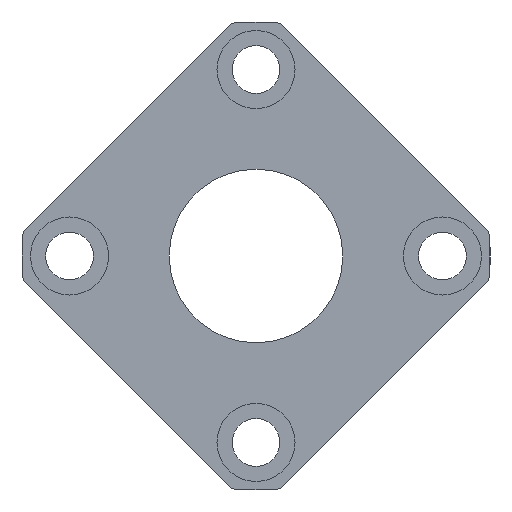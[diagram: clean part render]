
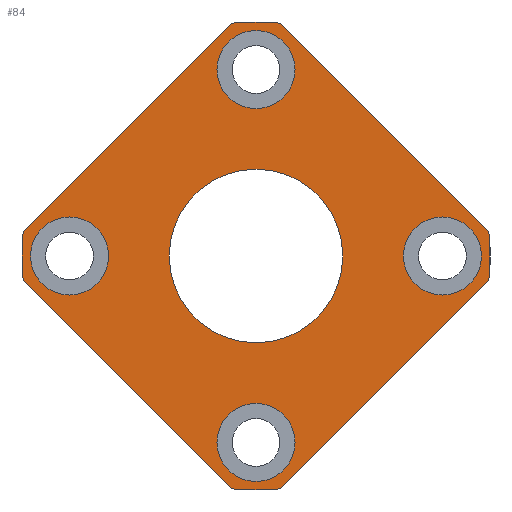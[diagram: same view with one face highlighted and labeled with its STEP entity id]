
A CAD part, left-side view. The second image highlights one B-rep face of the part: STEP entity #84.
In plain terms, the highlighted planar face has unit normal (-1, 0, 0).
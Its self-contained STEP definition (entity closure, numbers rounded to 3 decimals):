
#84 = ADVANCED_FACE( '', ( #125, #126, #127, #128, #129, #130 ), #131, .T. );
#125 = FACE_BOUND( '', #200, .T. );
#126 = FACE_BOUND( '', #201, .T. );
#127 = FACE_OUTER_BOUND( '', #202, .T. );
#128 = FACE_BOUND( '', #203, .T. );
#129 = FACE_BOUND( '', #204, .T. );
#130 = FACE_BOUND( '', #205, .T. );
#131 = PLANE( '', #206 );
#200 = EDGE_LOOP( '', ( #321 ) );
#201 = EDGE_LOOP( '', ( #322 ) );
#202 = EDGE_LOOP( '', ( #323, #324, #325, #326, #327, #328, #329, #330 ) );
#203 = EDGE_LOOP( '', ( #331 ) );
#204 = EDGE_LOOP( '', ( #332 ) );
#205 = EDGE_LOOP( '', ( #333 ) );
#206 = AXIS2_PLACEMENT_3D( '', #334, #335, #336 );
#321 = ORIENTED_EDGE( '', *, *, #444, .T. );
#322 = ORIENTED_EDGE( '', *, *, #434, .T. );
#323 = ORIENTED_EDGE( '', *, *, #445, .F. );
#324 = ORIENTED_EDGE( '', *, *, #430, .F. );
#325 = ORIENTED_EDGE( '', *, *, #419, .F. );
#326 = ORIENTED_EDGE( '', *, *, #427, .F. );
#327 = ORIENTED_EDGE( '', *, *, #415, .F. );
#328 = ORIENTED_EDGE( '', *, *, #429, .F. );
#329 = ORIENTED_EDGE( '', *, *, #423, .F. );
#330 = ORIENTED_EDGE( '', *, *, #443, .F. );
#331 = ORIENTED_EDGE( '', *, *, #446, .T. );
#332 = ORIENTED_EDGE( '', *, *, #447, .T. );
#333 = ORIENTED_EDGE( '', *, *, #448, .T. );
#334 = CARTESIAN_POINT( '', ( 0., 27., 0. ) );
#335 = DIRECTION( '', ( -1., 0., 0. ) );
#336 = DIRECTION( '', ( 0., 0., 1. ) );
#415 = EDGE_CURVE( '', #459, #461, #462, .T. );
#419 = EDGE_CURVE( '', #467, #469, #470, .T. );
#423 = EDGE_CURVE( '', #475, #477, #478, .T. );
#427 = EDGE_CURVE( '', #461, #467, #483, .T. );
#429 = EDGE_CURVE( '', #477, #459, #485, .T. );
#430 = EDGE_CURVE( '', #469, #486, #487, .T. );
#434 = EDGE_CURVE( '', #493, #493, #494, .F. );
#443 = EDGE_CURVE( '', #508, #475, #510, .T. );
#444 = EDGE_CURVE( '', #511, #511, #512, .T. );
#445 = EDGE_CURVE( '', #486, #508, #513, .T. );
#446 = EDGE_CURVE( '', #514, #514, #515, .T. );
#447 = EDGE_CURVE( '', #516, #516, #517, .T. );
#448 = EDGE_CURVE( '', #518, #518, #519, .T. );
#459 = VERTEX_POINT( '', #539 );
#461 = VERTEX_POINT( '', #542 );
#462 = LINE( '', #543, #544 );
#467 = VERTEX_POINT( '', #551 );
#469 = VERTEX_POINT( '', #554 );
#470 = LINE( '', #555, #556 );
#475 = VERTEX_POINT( '', #563 );
#477 = VERTEX_POINT( '', #566 );
#478 = LINE( '', #567, #568 );
#483 = CIRCLE( '', #575, 27. );
#485 = CIRCLE( '', #577, 27. );
#486 = VERTEX_POINT( '', #578 );
#487 = CIRCLE( '', #579, 27. );
#493 = VERTEX_POINT( '', #586 );
#494 = CIRCLE( '', #587, 4.5 );
#508 = VERTEX_POINT( '', #602 );
#510 = CIRCLE( '', #605, 27. );
#511 = VERTEX_POINT( '', #606 );
#512 = CIRCLE( '', #607, 10. );
#513 = LINE( '', #608, #609 );
#514 = VERTEX_POINT( '', #610 );
#515 = CIRCLE( '', #611, 4.5 );
#516 = VERTEX_POINT( '', #612 );
#517 = CIRCLE( '', #613, 4.5 );
#518 = VERTEX_POINT( '', #614 );
#519 = CIRCLE( '', #615, 4.5 );
#539 = CARTESIAN_POINT( '', ( 0., -26.849, -2.849 ) );
#542 = CARTESIAN_POINT( '', ( 0., -2.849, -26.849 ) );
#543 = CARTESIAN_POINT( '', ( 0., -29.698, 0. ) );
#544 = VECTOR( '', #635, 1000. );
#551 = CARTESIAN_POINT( '', ( 0., 2.849, -26.849 ) );
#554 = CARTESIAN_POINT( '', ( 0., 26.849, -2.849 ) );
#555 = CARTESIAN_POINT( '', ( 0., 0., -29.698 ) );
#556 = VECTOR( '', #639, 1000. );
#563 = CARTESIAN_POINT( '', ( 0., -2.849, 26.849 ) );
#566 = CARTESIAN_POINT( '', ( 0., -26.849, 2.849 ) );
#567 = CARTESIAN_POINT( '', ( 0., 0., 29.698 ) );
#568 = VECTOR( '', #643, 1000. );
#575 = AXIS2_PLACEMENT_3D( '', #649, #650, #651 );
#577 = AXIS2_PLACEMENT_3D( '', #655, #656, #657 );
#578 = CARTESIAN_POINT( '', ( 0., 26.849, 2.849 ) );
#579 = AXIS2_PLACEMENT_3D( '', #658, #659, #660 );
#586 = CARTESIAN_POINT( '', ( 0., 21.5, 4.5 ) );
#587 = AXIS2_PLACEMENT_3D( '', #668, #669, #670 );
#602 = CARTESIAN_POINT( '', ( 0., 2.849, 26.849 ) );
#605 = AXIS2_PLACEMENT_3D( '', #691, #692, #693 );
#606 = CARTESIAN_POINT( '', ( 0., 0., -10. ) );
#607 = AXIS2_PLACEMENT_3D( '', #694, #695, #696 );
#608 = CARTESIAN_POINT( '', ( 0., 29.698, 0. ) );
#609 = VECTOR( '', #697, 1000. );
#610 = CARTESIAN_POINT( '', ( 0., 0., 17. ) );
#611 = AXIS2_PLACEMENT_3D( '', #698, #699, #700 );
#612 = CARTESIAN_POINT( '', ( 0., 0., -26. ) );
#613 = AXIS2_PLACEMENT_3D( '', #701, #702, #703 );
#614 = CARTESIAN_POINT( '', ( 0., -21.5, -4.5 ) );
#615 = AXIS2_PLACEMENT_3D( '', #704, #705, #706 );
#635 = DIRECTION( '', ( 0., 0.707, -0.707 ) );
#639 = DIRECTION( '', ( 0., 0.707, 0.707 ) );
#643 = DIRECTION( '', ( 0., -0.707, -0.707 ) );
#649 = CARTESIAN_POINT( '', ( 0., 0., 0. ) );
#650 = DIRECTION( '', ( 1., 0., 0. ) );
#651 = DIRECTION( '', ( 0., 0., -1. ) );
#655 = CARTESIAN_POINT( '', ( 0., 0., 0. ) );
#656 = DIRECTION( '', ( 1., 0., 0. ) );
#657 = DIRECTION( '', ( 0., 0., -1. ) );
#658 = CARTESIAN_POINT( '', ( 0., 0., 0. ) );
#659 = DIRECTION( '', ( 1., 0., 0. ) );
#660 = DIRECTION( '', ( 0., 0., -1. ) );
#668 = CARTESIAN_POINT( '', ( 0., 21.5, 0. ) );
#669 = DIRECTION( '', ( -1., 0., 0. ) );
#670 = DIRECTION( '', ( 0., 0., 1. ) );
#691 = CARTESIAN_POINT( '', ( 0., 0., 0. ) );
#692 = DIRECTION( '', ( 1., 0., 0. ) );
#693 = DIRECTION( '', ( 0., 0., -1. ) );
#694 = CARTESIAN_POINT( '', ( 0., 0., 0. ) );
#695 = DIRECTION( '', ( 1., 0., 0. ) );
#696 = DIRECTION( '', ( 0., 0., -1. ) );
#697 = DIRECTION( '', ( 0., -0.707, 0.707 ) );
#698 = CARTESIAN_POINT( '', ( 0., 0., 21.5 ) );
#699 = DIRECTION( '', ( 1., 0., 0. ) );
#700 = DIRECTION( '', ( 0., 0., -1. ) );
#701 = CARTESIAN_POINT( '', ( 0., 0., -21.5 ) );
#702 = DIRECTION( '', ( 1., 0., 0. ) );
#703 = DIRECTION( '', ( 0., 0., -1. ) );
#704 = CARTESIAN_POINT( '', ( 0., -21.5, 0. ) );
#705 = DIRECTION( '', ( 1., 0., 0. ) );
#706 = DIRECTION( '', ( 0., 0., -1. ) );
